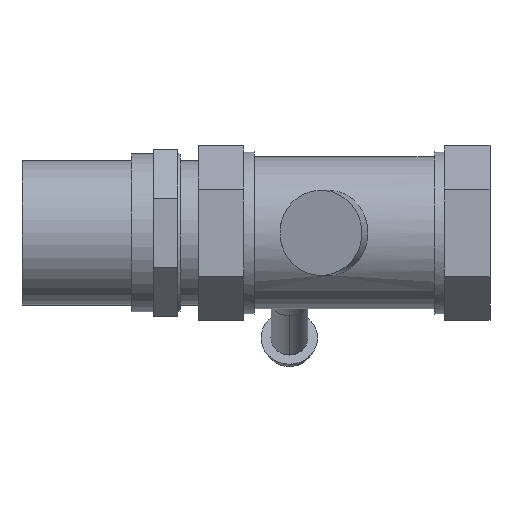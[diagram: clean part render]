
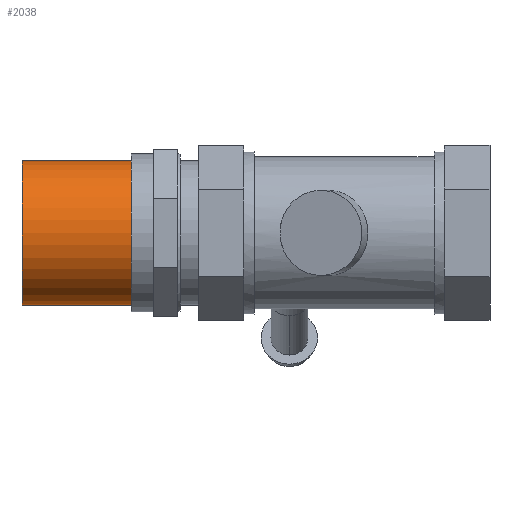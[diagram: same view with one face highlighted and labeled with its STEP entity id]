
A CAD part, front view. The second image highlights one B-rep face of the part: STEP entity #2038.
In plain terms, the highlighted cylindrical face has radius 30.163 mm (diameter 60.325 mm), a full revolution.
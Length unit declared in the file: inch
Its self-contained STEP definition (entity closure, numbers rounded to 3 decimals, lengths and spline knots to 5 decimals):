
#179=CYLINDRICAL_SURFACE('',#2285,1.1875);
#279=FACE_OUTER_BOUND('',#402,.T.);
#402=EDGE_LOOP('',(#1735,#1736,#1737,#1738,#1739,#1740));
#519=CIRCLE('',#2277,1.1875);
#520=CIRCLE('',#2278,1.1875);
#525=CIRCLE('',#2286,1.1875);
#526=CIRCLE('',#2287,1.1875);
#646=LINE('',#3642,#784);
#784=VECTOR('',#2861,1.1875);
#959=VERTEX_POINT('',#3623);
#960=VERTEX_POINT('',#3624);
#965=VERTEX_POINT('',#3639);
#966=VERTEX_POINT('',#3640);
#1221=EDGE_CURVE('',#959,#960,#519,.T.);
#1222=EDGE_CURVE('',#960,#959,#520,.T.);
#1228=EDGE_CURVE('',#965,#966,#525,.T.);
#1229=EDGE_CURVE('',#966,#960,#646,.T.);
#1230=EDGE_CURVE('',#966,#965,#526,.T.);
#1735=ORIENTED_EDGE('',*,*,#1228,.T.);
#1736=ORIENTED_EDGE('',*,*,#1229,.T.);
#1737=ORIENTED_EDGE('',*,*,#1222,.T.);
#1738=ORIENTED_EDGE('',*,*,#1221,.T.);
#1739=ORIENTED_EDGE('',*,*,#1229,.F.);
#1740=ORIENTED_EDGE('',*,*,#1230,.T.);
#2038=ADVANCED_FACE('',(#279),#179,.T.);
#2277=AXIS2_PLACEMENT_3D('',#3625,#2840,#2841);
#2278=AXIS2_PLACEMENT_3D('',#3626,#2842,#2843);
#2285=AXIS2_PLACEMENT_3D('',#3638,#2857,#2858);
#2286=AXIS2_PLACEMENT_3D('',#3641,#2859,#2860);
#2287=AXIS2_PLACEMENT_3D('',#3643,#2862,#2863);
#2840=DIRECTION('center_axis',(1.,0.,0.));
#2841=DIRECTION('ref_axis',(0.,0.,-1.));
#2842=DIRECTION('center_axis',(1.,0.,0.));
#2843=DIRECTION('ref_axis',(0.,0.,-1.));
#2857=DIRECTION('center_axis',(1.,0.,0.));
#2858=DIRECTION('ref_axis',(0.,1.,0.));
#2859=DIRECTION('center_axis',(-1.,0.,0.));
#2860=DIRECTION('ref_axis',(0.,1.,0.));
#2861=DIRECTION('',(-1.,0.,0.));
#2862=DIRECTION('center_axis',(-1.,0.,0.));
#2863=DIRECTION('ref_axis',(0.,1.,0.));
#3623=CARTESIAN_POINT('',(-5.3,1.1875,0.));
#3624=CARTESIAN_POINT('',(-5.3,-1.1875,0.));
#3625=CARTESIAN_POINT('Origin',(-5.3,0.,0.));
#3626=CARTESIAN_POINT('Origin',(-5.3,0.,0.));
#3638=CARTESIAN_POINT('Origin',(-3.475,0.,0.));
#3639=CARTESIAN_POINT('',(-3.5,1.1875,0.));
#3640=CARTESIAN_POINT('',(-3.5,-1.1875,0.));
#3641=CARTESIAN_POINT('Origin',(-3.5,0.,0.));
#3642=CARTESIAN_POINT('',(-3.475,-1.1875,0.));
#3643=CARTESIAN_POINT('Origin',(-3.5,0.,0.));
